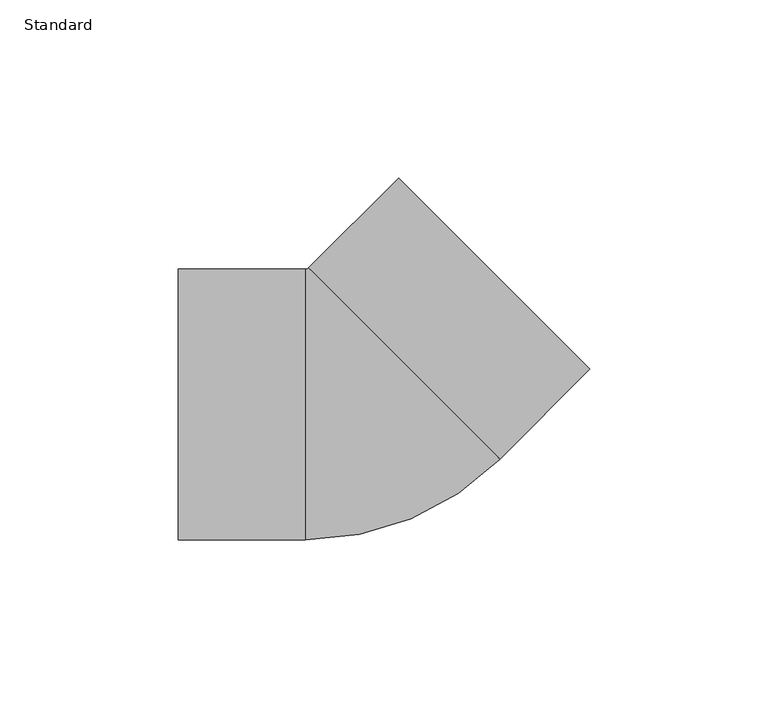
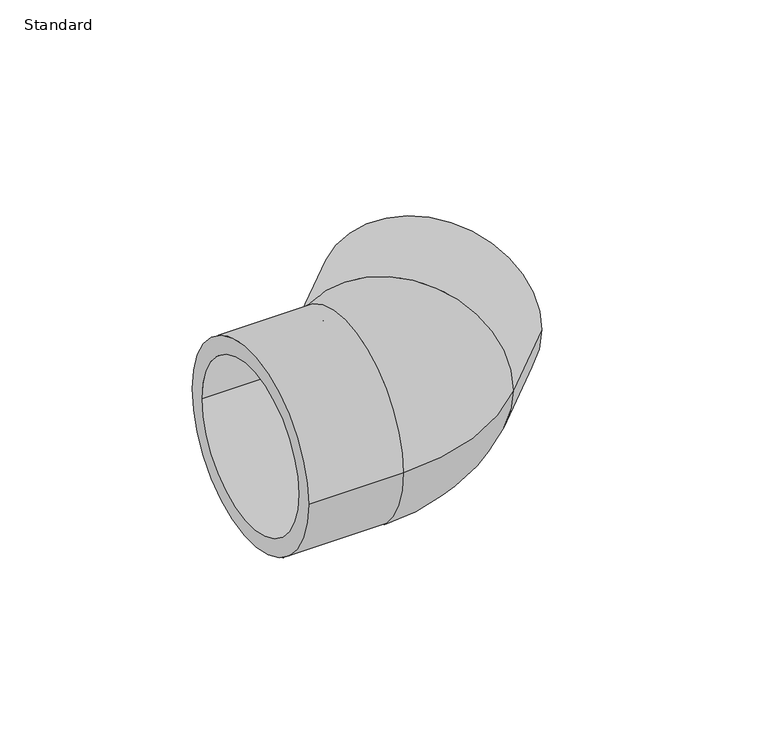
"""IFC4 building model written with IfcOpenShell, lengths in millimetres: pipe fitting geometry, Durapipe_PipeFitting_PVC_Elbow45deg : Standard."""

from ifc_helpers import new_model, si_unit, point, frame, origin, place, context, project, spatial, polyline, circle_curve, ellipse_curve, trimmed, source, transform, mapped, element, save
from ifc_brep_helpers import plane_surface, cylinder_surface, revolved_surface, advanced_brep


def standard_29ab3000(model_context):
    return source(origin(), model_context, "Body", "AdvancedBrep", [
        advanced_brep(
        [(-52.0, -38.0, 0.0), (-52.0, 38.0, 0.0), (-52.0, -31.5, 0.0), (-52.0, 31.5, 0.0), (-16.2401154, -38.0, 0.0), (-16.2401154, 38.0, 0.0), (38.3535534, -15.386562, 0.0), (-15.386562, 38.3535534, 0.0), (63.6396103, 9.8994949, 0.0), (9.8994949, 63.6396103, 0.0), (14.495689, 59.0434162, 0.0), (59.0434162, 14.495689, 0.0), (-14.0, 31.5, 0.0), (-14.0, -31.5, 0.0), (-14.0, 0.0, 0.0), (-12.3743687, 32.1733585, 0.0), (9.8994949, 9.8994949, 0.0), (32.1733585, -12.3743687, 0.0)],
        [
            (0, 1, circle_curve(frame((-52.0, 0.0, 0.0), z_axis=(-1.0, 0.0, 0.0), x_axis=(0.0, 1.0, 0.0)), 38.0)),
            (1, 0, circle_curve(frame((-52.0, 0.0, 0.0), z_axis=(-1.0, 0.0, 0.0), x_axis=(0.0, 1.0, 0.0)), 38.0)),
            (2, 3, circle_curve(frame((-52.0, 0.0, 0.0), z_axis=(1.0, 0.0, 0.0), x_axis=(0.0, -1.0, 0.0)), 31.5)),
            (3, 2, circle_curve(frame((-52.0, 0.0, 0.0), z_axis=(1.0, 0.0, 0.0), x_axis=(0.0, -1.0, 0.0)), 31.5)),
            (0, 4),
            (4, 5, circle_curve(frame((-16.2401154, 0.0, 0.0), z_axis=(-1.0, 0.0, 0.0), x_axis=(0.0, 1.0, 0.0)), 38.0)),
            (5, 1),
            (5, 4, circle_curve(frame((-16.2401154, 0.0, 0.0), z_axis=(-1.0, 0.0, 0.0), x_axis=(0.0, 1.0, 0.0)), 38.0)),
            (4, 6, circle_curve(frame((-16.2401154, 39.2071068, 0.0), z_axis=(0.0, 0.0, 1.0), x_axis=(0.0, -1.0, 0.0)), 77.2071068)),
            (6, 7, circle_curve(frame((11.4834957, 11.4834957, 0.0), z_axis=(-0.7071067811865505, -0.7071067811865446, 0.0), x_axis=(-0.7071067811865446, 0.7071067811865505, 0.0)), 38.0)),
            (7, 5, circle_curve(frame((-16.2401154, 39.2071068, 0.0), z_axis=(0.0, 0.0, -1.0), x_axis=(0.0, -1.0, 0.0)), 1.2071068)),
            (7, 6, circle_curve(frame((11.4834957, 11.4834957, 0.0), z_axis=(-0.7071067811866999, -0.7071067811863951, 0.0), x_axis=(-0.7071067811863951, 0.7071067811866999, 0.0)), 38.0)),
            (8, 9, circle_curve(frame((36.7695526, 36.7695526, 0.0), z_axis=(0.7071067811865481, 0.7071067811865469, 0.0), x_axis=(-0.7071067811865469, 0.7071067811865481, 0.0)), 38.0)),
            (9, 8, circle_curve(frame((36.7695526, 36.7695526, 0.0), z_axis=(0.7071067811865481, 0.7071067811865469, 0.0), x_axis=(-0.7071067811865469, 0.7071067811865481, 0.0)), 38.0)),
            (10, 11, circle_curve(frame((36.7695526, 36.7695526, 0.0), z_axis=(-0.707106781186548, -0.707106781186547, 0.0), x_axis=(0.707106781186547, -0.707106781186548, 0.0)), 31.5)),
            (11, 10, circle_curve(frame((36.7695526, 36.7695526, 0.0), z_axis=(-0.707106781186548, -0.707106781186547, 0.0), x_axis=(0.707106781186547, -0.707106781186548, 0.0)), 31.5)),
            (6, 8),
            (9, 7),
            (12, 3),
            (2, 13),
            (13, 12, circle_curve(frame((-14.0, 0.0, 0.0), z_axis=(1.0, 0.0, 0.0), x_axis=(0.0, -1.0, 0.0)), 31.5)),
            (12, 13, circle_curve(frame((-14.0, 0.0, 0.0), z_axis=(1.0, 0.0, 0.0), x_axis=(0.0, -1.0, 0.0)), 31.5)),
            (13, 14),
            (14, 12),
            (15, 16),
            (16, 17),
            (17, 15, circle_curve(frame((9.8994949, 9.8994949, 0.0), z_axis=(0.707106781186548, 0.707106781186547, 0.0), x_axis=(0.707106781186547, -0.707106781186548, 0.0)), 31.5)),
            (15, 17, circle_curve(frame((9.8994949, 9.8994949, 0.0), z_axis=(0.707106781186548, 0.707106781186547, 0.0), x_axis=(0.707106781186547, -0.707106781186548, 0.0)), 31.5)),
            (17, 11),
            (10, 15),
        ],
        [
            plane_surface(frame((-52.0, 0.0, 0.0), z_axis=(-1.0, 0.0, 0.0), x_axis=(0.0, 0.0, 1.0))),
            cylinder_surface(frame((-52.0, 0.0, 0.0), z_axis=(-1.0, 0.0, 0.0), x_axis=(0.0, 1.0, 0.0)), 38.0),
            revolved_surface(trimmed(ellipse_curve(frame((-16.2401154, 0.0, 0.0), z_axis=(-1.0, 0.0, 0.0), x_axis=(0.0, 1.0, 0.0)), 38.0, 38.0), [point((-16.2401154, -38.0, 0.0))], [point((-16.2401154, 38.0, 0.0))], True, "CARTESIAN"), (-16.2401154, 39.2071068, 0.0), (0.0, 0.0, 1.0)),
            revolved_surface(trimmed(ellipse_curve(frame((-16.2401154, 0.0, 0.0), z_axis=(-1.0, 0.0, 0.0), x_axis=(0.0, 1.0, 0.0)), 38.0, 38.0), [point((-16.2401154, 38.0, 0.0))], [point((-16.2401154, -38.0, 0.0))], True, "CARTESIAN"), (-16.2401154, 39.2071068, 0.0), (0.0, 0.0, 1.0)),
            plane_surface(frame((36.7695526, 36.7695526, 0.0), z_axis=(0.7071067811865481, 0.7071067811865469, 0.0), x_axis=(0.0, 0.0, 1.0))),
            cylinder_surface(frame((11.4834957, 11.4834957, 0.0), z_axis=(-0.7071067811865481, -0.7071067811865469, 0.0), x_axis=(-0.7071067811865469, 0.7071067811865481, 0.0)), 38.0),
            revolved_surface(polyline([(-14.0, -31.5, 0.0), (-52.0, -31.5, 0.0)]), (2000.0, 0.0, 0.0), (1.0, 0.0, 0.0)),
            plane_surface(frame((-14.0, 0.0, 0.0), z_axis=(-1.0, 0.0, 0.0), x_axis=(0.0, -1.0, 0.0))),
            plane_surface(frame((9.8994949, 9.8994949, 0.0), z_axis=(0.707106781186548, 0.707106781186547, 0.0), x_axis=(0.707106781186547, -0.707106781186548, 0.0))),
            revolved_surface(polyline([(59.04341620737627, 14.495688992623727, 0.0), (32.17335850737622, -12.374368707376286, 0.0)]), (0.0, 0.0, 0.0), (0.707106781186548, 0.707106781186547, 0.0)),
        ],
        [
            (0, [[1, 2], [3, 4]]),
            (1, [[-1, 5, 6, 7]]),
            (1, [[-2, -7, 8, -5]]),
            (2, [[-6, 9, 10, 11]]),
            (3, [[-8, -11, 12, -9]]),
            (4, [[13, 14], [15, 16]]),
            (5, [[-10, 17, -14, 18]]),
            (5, [[-12, -18, -13, -17]]),
            (6, [[19, -3, 20, 21]]),
            (6, [[-19, 22, -20, -4]]),
            (7, [[-21, 23, 24]]),
            (7, [[-22, -24, -23]]),
            (8, [[25, 26, 27]]),
            (8, [[-25, 28, -26]]),
            (9, [[-27, 29, -15, 30]]),
            (9, [[-28, -30, -16, -29]]),
        ],
    ),
    ])


if __name__ == "__main__":
    model = new_model("IFC4")
    model_context = context("Model", 3, world=origin())
    ifc_project = project(units=[si_unit("LENGTHUNIT", "METRE", prefix="MILLI")], contexts=[model_context])
    site = spatial("IfcSite", under=ifc_project)
    building = spatial("IfcBuilding", under=site)
    placement = place(None, origin())
    standard_shape = standard_29ab3000(model_context)
    element("IfcPipeFitting", 1, ObjectType="Durapipe_PipeFitting_PVC_Elbow45deg : Standard", at=placement, inside=building, context=model_context, shape_type="MappedRepresentation", body=[
        mapped(standard_shape, transform((0.0, 0.0, 0.0), x_axis=(1.0, 0.0, 0.0), y_axis=(0.0, 1.0, 0.0), z_axis=(0.0, 0.0, 1.0))),
    ])
    save(model, "model.ifc")
